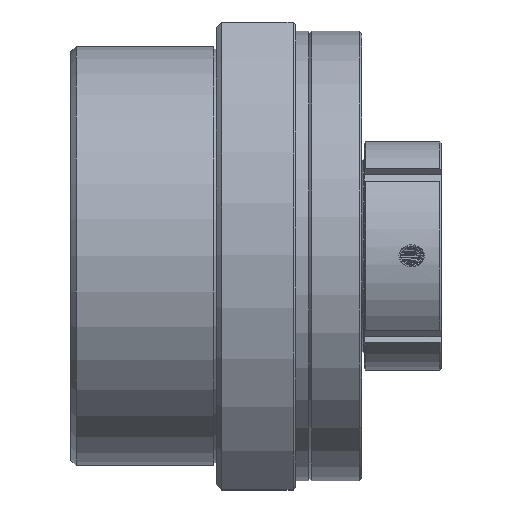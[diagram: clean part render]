
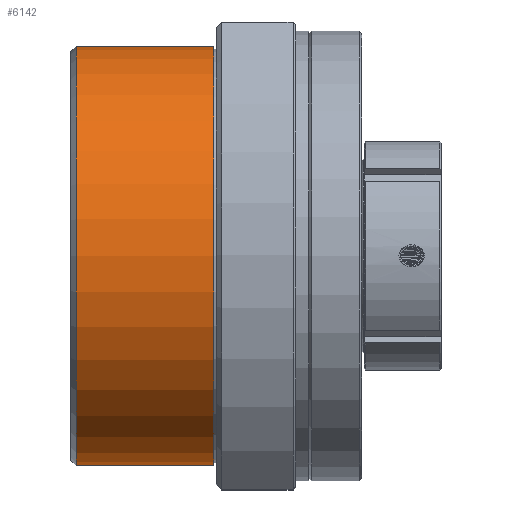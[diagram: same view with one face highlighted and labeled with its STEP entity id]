
A CAD part, top view. The second image highlights one B-rep face of the part: STEP entity #6142.
In plain terms, the highlighted cylindrical face has radius 47.5 mm (diameter 95 mm), a full revolution.
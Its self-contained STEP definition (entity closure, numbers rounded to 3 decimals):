
#6142=ADVANCED_FACE('',(#14550,#14551),#14552,.T.);
#8310=EDGE_CURVE('',#17783,#17783,#17784,.T.);
#8898=EDGE_CURVE('',#18606,#18606,#18607,.T.);
#14550=FACE_OUTER_BOUND('',#27850,.T.);
#14551=FACE_OUTER_BOUND('',#27851,.T.);
#14552=CYLINDRICAL_SURFACE('',#27852,47.5);
#17783=VERTEX_POINT('',#33698);
#17784=CIRCLE('',#33699,47.5);
#18606=VERTEX_POINT('',#35404);
#18607=CIRCLE('',#35405,47.5);
#27850=EDGE_LOOP('',(#43009));
#27851=EDGE_LOOP('',(#43010));
#27852=AXIS2_PLACEMENT_3D('',#43011,#43012,#43013);
#33698=CARTESIAN_POINT('',(32.4,0.0,47.5));
#33699=AXIS2_PLACEMENT_3D('',#47257,#47258,#47259);
#35404=CARTESIAN_POINT('',(1.2,0.0,47.5));
#35405=AXIS2_PLACEMENT_3D('',#48282,#48283,#48284);
#43009=ORIENTED_EDGE('',*,*,#8898,.T.);
#43010=ORIENTED_EDGE('',*,*,#8310,.F.);
#43011=CARTESIAN_POINT('',(16.8,0.0,0.0));
#43012=DIRECTION('',(-1.0,0.0,0.0));
#43013=DIRECTION('',(0.0,0.0,1.0));
#47257=CARTESIAN_POINT('',(32.4,0.0,0.0));
#47258=DIRECTION('',(1.0,0.0,-0.0));
#47259=DIRECTION('',(0.0,0.0,1.0));
#48282=CARTESIAN_POINT('',(1.2,0.0,0.0));
#48283=DIRECTION('',(1.0,0.0,-0.0));
#48284=DIRECTION('',(0.0,0.0,1.0));
